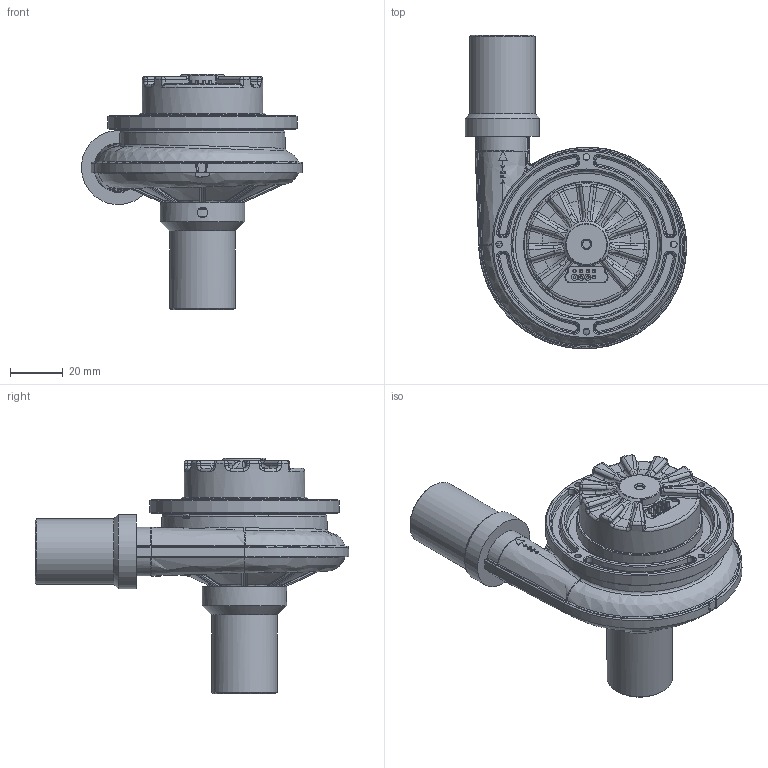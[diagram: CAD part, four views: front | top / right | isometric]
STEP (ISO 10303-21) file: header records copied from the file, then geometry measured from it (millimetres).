
FILE_DESCRIPTION(/* description */ (''),/* implementation_level */ '2;1');
FILE_NAME(/* name */ 'U85MX-024KE-53.stp',/* time_stamp */ '2024-03-28T14:45:07+01:00',/* author */ (''),/* organization */ (''),/* preprocessor_version */ 'ST-DEVELOPER v16.7',/* originating_system */ 'SIEMENS PLM Software NX 1946',/* authorisation */ '');
FILE_SCHEMA (('AUTOMOTIVE_DESIGN { 1 0 10303 214 3 1 1 1 }'));
Length unit declared in the file: millimetre
Products named in the file (1): 021374_1-U85MX-024KE-53_Simple _U85MX-024KE-53_
Bounding box: 84.18 x 119.45 x 89.6 mm (x, y, z)
Volume: 161252.2 mm3; surface area: 38306.4 mm2
Topology: 1 solids, 2 shells, 1213 faces, 2967 edges, 1800 vertices
Faces by surface type: plane 362, cylinder 356, bspline 342, torus 69, cone 64, sphere 14, extrusion 5, revolution 1
Full cylindrical faces by diameter (mm): 2.5 x4, 3 x1, 4 x1, 14.6 x1, 19 x1, 23 x1, 24.2 x1, 25 x2, 25.9 x1, 27 x1, 27.1 x1, 28.2 x1, 32.1 x1, 46 x1, 46.5 x1, 48 x1, 72 x1
Entity records: 48095 total; most frequent: CARTESIAN_POINT 23668, ORIENTED_EDGE 5780, DIRECTION 3851, EDGE_CURVE 2890, VERTEX_POINT 1779, AXIS2_PLACEMENT_3D 1511, B_SPLINE_CURVE_WITH_KNOTS 1385, EDGE_LOOP 1323
